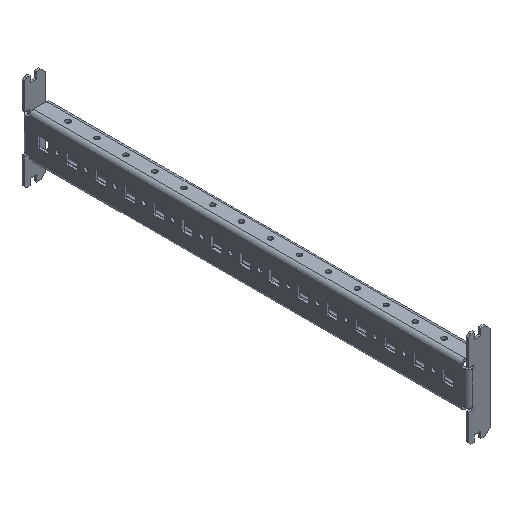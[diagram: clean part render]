
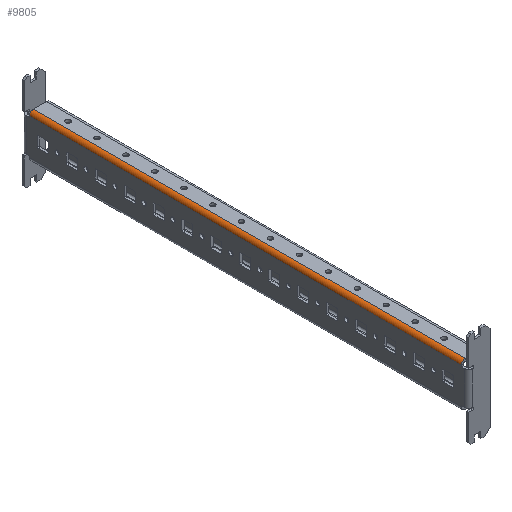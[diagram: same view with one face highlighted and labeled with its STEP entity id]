
A CAD part, isometric view. The second image highlights one B-rep face of the part: STEP entity #9805.
In plain terms, the highlighted cylindrical face has radius 3.5 mm (diameter 7 mm), a partial arc.
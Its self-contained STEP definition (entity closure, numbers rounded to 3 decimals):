
#197 = CARTESIAN_POINT ( 'NONE',  ( 0., 186.625, 15.5 ) ) ;
#1022 = CARTESIAN_POINT ( 'NONE',  ( 3.5, 189.5, 15.5 ) ) ;
#1023 = DIRECTION ( 'NONE',  ( 0., -1., 0. ) ) ;
#1024 = DIRECTION ( 'NONE',  ( 0., 0., -1. ) ) ;
#2408 = DIRECTION ( 'NONE',  ( 0., 0., -1. ) ) ;
#2409 = DIRECTION ( 'NONE',  ( 0., -1., 0. ) ) ;
#2410 = DIRECTION ( 'NONE',  ( 0., -1., 0. ) ) ;
#2411 = CARTESIAN_POINT ( 'NONE',  ( 3.5, 189.5, 19. ) ) ;
#2412 = LINE ( 'NONE', #2411, #6623 ) ;
#2413 = CARTESIAN_POINT ( 'NONE',  ( 3.5, -186.625, 15.5 ) ) ;
#2414 = DIRECTION ( 'NONE',  ( 0., 0., -1. ) ) ;
#2415 = DIRECTION ( 'NONE',  ( 0., -1., 0. ) ) ;
#2416 = CARTESIAN_POINT ( 'NONE',  ( 3.5, 186.625, 15.5 ) ) ;
#2798 = DIRECTION ( 'NONE',  ( 0., -1., 0. ) ) ;
#2800 = CARTESIAN_POINT ( 'NONE',  ( 0., 189.5, 15.5 ) ) ;
#2802 = LINE ( 'NONE', #2800, #6504 ) ;
#4065 = CARTESIAN_POINT ( 'NONE',  ( 0., -186.625, 15.5 ) ) ;
#4080 = CARTESIAN_POINT ( 'NONE',  ( 3.5, -186.625, 19. ) ) ;
#4083 = CARTESIAN_POINT ( 'NONE',  ( 3.5, 186.625, 19. ) ) ;
#5476 = VERTEX_POINT ( 'NONE', #4083 ) ;
#5479 = VERTEX_POINT ( 'NONE', #4080 ) ;
#5612 = CYLINDRICAL_SURFACE ( 'NONE', #5979, 3.5 ) ;
#5854 = FACE_OUTER_BOUND ( 'NONE', #9616, .T. ) ;
#5979 = AXIS2_PLACEMENT_3D ( 'NONE', #1022, #1023, #1024 ) ;
#6040 = VERTEX_POINT ( 'NONE', #4065 ) ;
#6504 = VECTOR ( 'NONE', #2798, 1000. ) ;
#6616 = AXIS2_PLACEMENT_3D ( 'NONE', #2416, #2415, #2414 ) ;
#6622 = AXIS2_PLACEMENT_3D ( 'NONE', #2413, #2409, #2408 ) ;
#6623 = VECTOR ( 'NONE', #2410, 1000. ) ;
#7251 = CIRCLE ( 'NONE', #6622, 3.5 ) ;
#7285 = CIRCLE ( 'NONE', #6616, 3.5 ) ;
#7601 = EDGE_CURVE ( 'NONE', #8488, #6040, #2802, .T. ) ;
#7768 = EDGE_CURVE ( 'NONE', #5476, #8488, #7285, .T. ) ;
#7769 = EDGE_CURVE ( 'NONE', #5476, #5479, #2412, .T. ) ;
#7770 = EDGE_CURVE ( 'NONE', #5479, #6040, #7251, .T. ) ;
#8488 = VERTEX_POINT ( 'NONE', #197 ) ;
#9163 = ORIENTED_EDGE ( 'NONE', *, *, #7769, .F. ) ;
#9164 = ORIENTED_EDGE ( 'NONE', *, *, #7601, .T. ) ;
#9165 = ORIENTED_EDGE ( 'NONE', *, *, #7768, .T. ) ;
#9166 = ORIENTED_EDGE ( 'NONE', *, *, #7770, .F. ) ;
#9616 = EDGE_LOOP ( 'NONE', ( #9163, #9165, #9164, #9166 ) ) ;
#9805 = ADVANCED_FACE ( 'NONE', ( #5854 ), #5612, .T. ) ;
